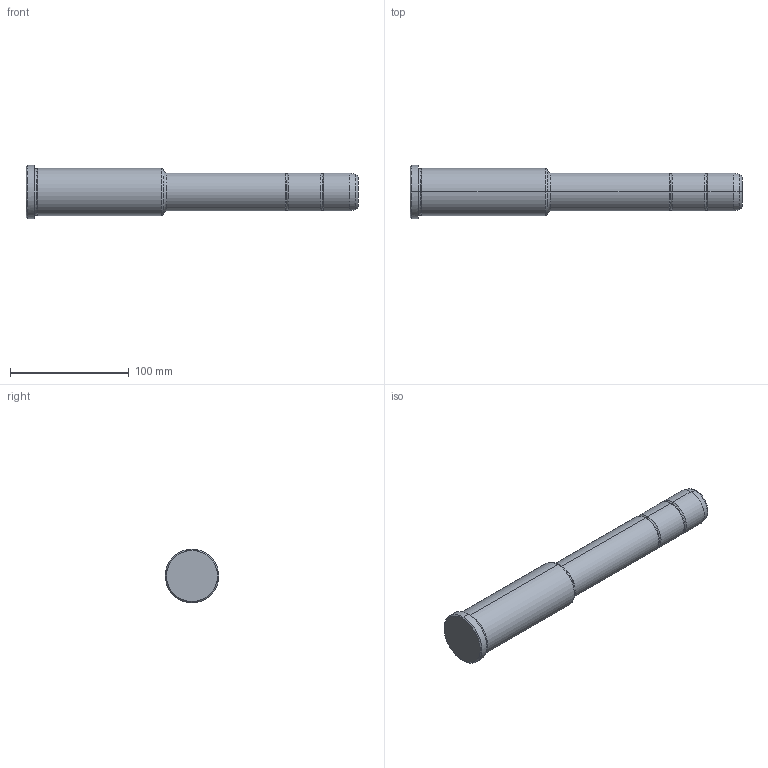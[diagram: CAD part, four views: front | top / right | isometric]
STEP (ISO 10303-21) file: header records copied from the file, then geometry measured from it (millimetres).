
FILE_DESCRIPTION(('CATIA V5 STEP Exchange'),'2;1');
FILE_NAME('C:\Users\Utente\Desktop\IO LAVORO\3D X SITO CF\X SITO\PLASTICA\351\351-32X116X280.stp','2021-09-15T11:37:23+00:00',('none'),('none'),'CATIA Version 5 Release 20 GA (IN-10)','CATIA V5 STEP AP203','none');
FILE_SCHEMA(('CONFIG_CONTROL_DESIGN'));
Length unit declared in the file: millimetre
Products named in the file (1): 351-32X116X280
Bounding box: 280 x 45 x 45 mm (x, y, z)
Volume: 278797.8 mm3; surface area: 33925.6 mm2
Topology: 1 solids, 1 shells, 36 faces, 102 edges, 70 vertices
Faces by surface type: torus 16, cylinder 10, cone 6, plane 4
Entity records: 1292 total; most frequent: CARTESIAN_POINT 321, ORIENTED_EDGE 204, DIRECTION 166, AXIS2_PLACEMENT_3D 115, EDGE_CURVE 102, CIRCLE 78, VERTEX_POINT 70, EDGE_LOOP 38
